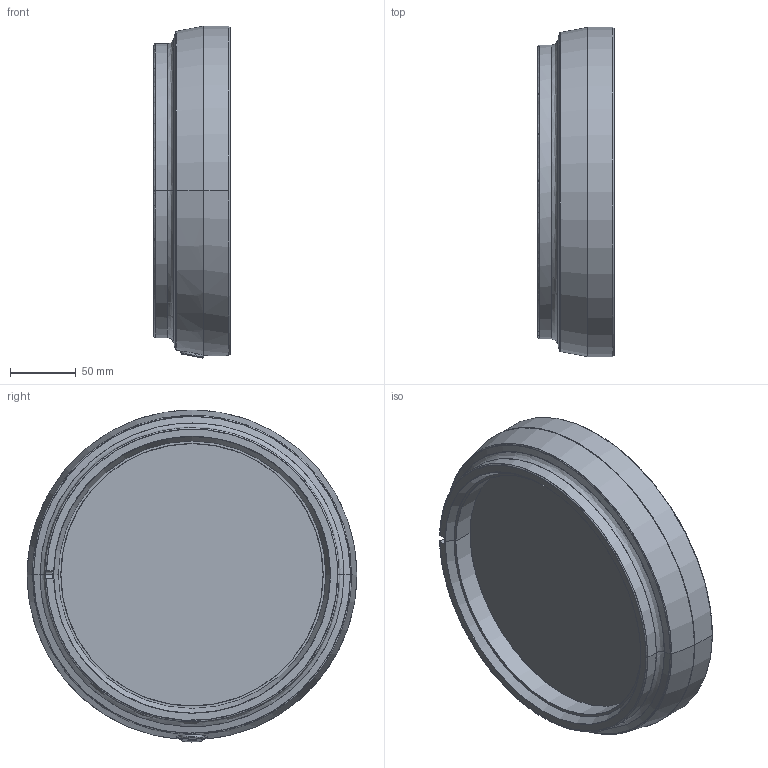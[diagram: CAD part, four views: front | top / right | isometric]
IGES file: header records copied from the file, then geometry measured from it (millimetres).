
Start section: SolidWorks IGES file using analytic representation for surfaces
Global section: file name: B:\DM\Robotics\SEROP_PROJ\Product Development\DevelopmentProjects\Manipulator_Modularity\04. Product Design\06. CAD\Amanda\7720 Lightweight models\IRB7720_620kg-290_OC_00_SW_J\IRB7720_All-290_OC_00_LINK06_CAD.IGS; native system: SolidWorks 2022; preprocessor: SolidWorks 2022; author: SEAMSTO1; date: 240119.105739; units: millimetre
Bounding box: 57.7 x 250 x 251.84 mm (x, y, z)
Surface area: 195843.4 mm2 (no closed solid volume)
Topology: 0 solids, 0 shells, 289 faces, 5039 edges, 5011 vertices
Faces by surface type: revolution 225, bspline 64
